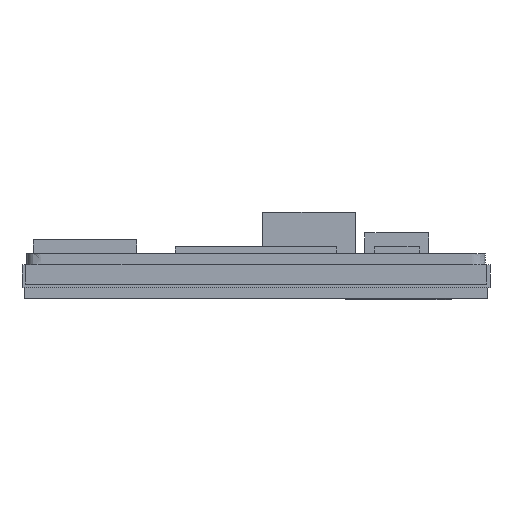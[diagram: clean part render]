
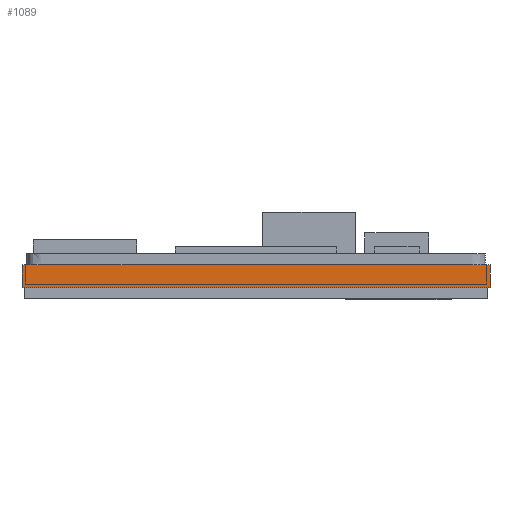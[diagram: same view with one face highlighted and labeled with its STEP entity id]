
A CAD part, front view. The second image highlights one B-rep face of the part: STEP entity #1089.
In plain terms, the highlighted planar face has unit normal (0, -1, 0).
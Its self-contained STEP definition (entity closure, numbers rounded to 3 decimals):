
#654=FACE_OUTER_BOUND('',#1436,.T.);
#773=LINE('',#4124,#928);
#774=LINE('',#4125,#929);
#928=VECTOR('',#3136,1.);
#929=VECTOR('',#3137,1.);
#1089=ADVANCED_FACE('',(#654),#1211,.T.);
#1211=PLANE('',#2862);
#1436=EDGE_LOOP('',(#1831,#1832,#1833,#1834));
#1831=ORIENTED_EDGE('',*,*,#2485,.F.);
#1832=ORIENTED_EDGE('',*,*,#2517,.F.);
#1833=ORIENTED_EDGE('',*,*,#2509,.T.);
#1834=ORIENTED_EDGE('',*,*,#2518,.T.);
#2229=VERTEX_POINT('',#4013);
#2230=VERTEX_POINT('',#4014);
#2253=VERTEX_POINT('',#4087);
#2254=VERTEX_POINT('',#4088);
#2485=EDGE_CURVE('',#2229,#2230,#2738,.T.);
#2509=EDGE_CURVE('',#2253,#2254,#2746,.T.);
#2517=EDGE_CURVE('',#2253,#2229,#773,.T.);
#2518=EDGE_CURVE('',#2254,#2230,#774,.T.);
#2738=B_SPLINE_CURVE_WITH_KNOTS('',3,(#4009,#4010,#4011,#4012),
 .UNSPECIFIED.,.F.,.F.,(4,4),(0.,1.),.UNSPECIFIED.);
#2746=B_SPLINE_CURVE_WITH_KNOTS('',3,(#4083,#4084,#4085,#4086),
 .UNSPECIFIED.,.F.,.F.,(4,4),(0.,1.),.UNSPECIFIED.);
#2862=AXIS2_PLACEMENT_3D('',#4126,#3138,#3139);
#3136=DIRECTION('',(0.,0.,-1.));
#3137=DIRECTION('',(0.,0.,-1.));
#3138=DIRECTION('',(0.,-1.,0.));
#3139=DIRECTION('',(1.,0.,0.));
#4009=CARTESIAN_POINT('',(223.444,-88.03,-4.9));
#4010=CARTESIAN_POINT('',(200.911,-88.03,-4.9));
#4011=CARTESIAN_POINT('',(178.378,-88.03,-4.9));
#4012=CARTESIAN_POINT('',(155.844,-88.03,-4.9));
#4013=CARTESIAN_POINT('',(223.444,-88.03,-4.9));
#4014=CARTESIAN_POINT('',(155.844,-88.03,-4.9));
#4083=CARTESIAN_POINT('',(223.444,-88.03,-1.6));
#4084=CARTESIAN_POINT('',(200.911,-88.03,-1.6));
#4085=CARTESIAN_POINT('',(178.378,-88.03,-1.6));
#4086=CARTESIAN_POINT('',(155.844,-88.03,-1.6));
#4087=CARTESIAN_POINT('',(223.444,-88.03,-1.6));
#4088=CARTESIAN_POINT('',(155.844,-88.03,-1.6));
#4124=CARTESIAN_POINT('',(223.444,-88.03,-1.6));
#4125=CARTESIAN_POINT('',(155.844,-88.03,-1.6));
#4126=CARTESIAN_POINT('',(223.444,-88.03,-1.6));
